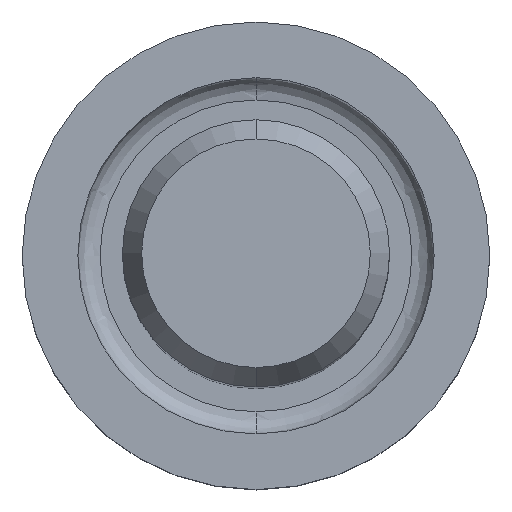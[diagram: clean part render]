
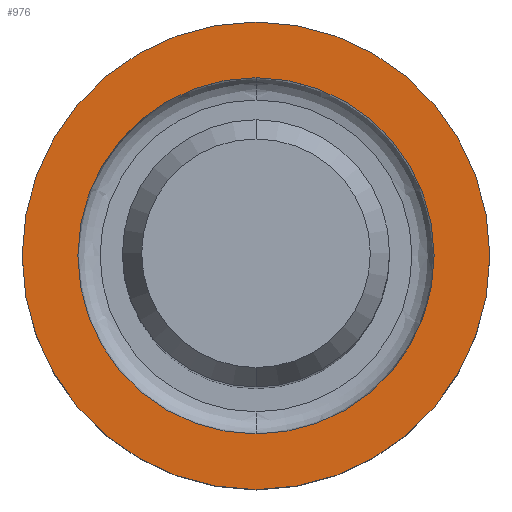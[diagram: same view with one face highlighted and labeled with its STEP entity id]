
A CAD part, top view. The second image highlights one B-rep face of the part: STEP entity #976.
In plain terms, the highlighted free-form (B-spline) face has degree [1, 1] with [2, 2] control points.
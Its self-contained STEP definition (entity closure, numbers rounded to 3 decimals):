
#145=CARTESIAN_POINT('',(0.,0.,-65.));
#146=DIRECTION('',(0.,0.,-1.));
#147=DIRECTION('',(0.,-1.,0.));
#148=AXIS2_PLACEMENT_3D('',#145,#146,#147);
#150=CARTESIAN_POINT('',(0.,0.,-65.));
#151=DIRECTION('',(0.,0.,1.));
#152=DIRECTION('',(0.,-1.,0.));
#153=AXIS2_PLACEMENT_3D('',#150,#151,#152);
#155=CARTESIAN_POINT('',(0.,0.,-65.));
#156=DIRECTION('',(0.,0.,1.));
#157=DIRECTION('',(0.,1.,0.));
#158=AXIS2_PLACEMENT_3D('',#155,#156,#157);
#160=CARTESIAN_POINT('',(0.,0.,-65.));
#161=DIRECTION('',(0.,0.,1.));
#162=DIRECTION('',(0.,-1.,0.));
#163=AXIS2_PLACEMENT_3D('',#160,#161,#162);
#260=CARTESIAN_POINT('',(0.,10.5,-65.));
#262=VERTEX_POINT('',#260);
#264=CARTESIAN_POINT('',(0.,-10.5,-65.));
#266=VERTEX_POINT('',#264);
#288=CARTESIAN_POINT('',(0.,8.,-65.));
#289=CARTESIAN_POINT('',(0.,-8.,-65.));
#290=VERTEX_POINT('',#288);
#291=VERTEX_POINT('',#289);
#960=CARTESIAN_POINT('',(10.92,10.92,-65.));
#961=CARTESIAN_POINT('',(-10.92,10.92,-65.));
#962=CARTESIAN_POINT('',(10.92,-10.92,-65.));
#963=CARTESIAN_POINT('',(-10.92,-10.92,-65.));
#964=B_SPLINE_SURFACE_WITH_KNOTS('',1,1,((#960,#961),(#962,#963)),.UNSPECIFIED.,
.F.,.F.,.F.,(2,2),(2,2),(-10.92,10.92),(-10.92,10.92),.UNSPECIFIED.);
#966=ORIENTED_EDGE('',*,*,#965,.T.);
#968=ORIENTED_EDGE('',*,*,#967,.F.);
#969=EDGE_LOOP('',(#966,#968));
#970=FACE_OUTER_BOUND('',#969,.F.);
#971=ORIENTED_EDGE('',*,*,#943,.T.);
#973=ORIENTED_EDGE('',*,*,#972,.T.);
#974=EDGE_LOOP('',(#971,#973));
#975=FACE_BOUND('',#974,.F.);
#149=CIRCLE('',#148,10.5);
#154=CIRCLE('',#153,10.5);
#159=CIRCLE('',#158,8.);
#164=CIRCLE('',#163,8.);
#943=EDGE_CURVE('',#290,#291,#159,.T.);
#965=EDGE_CURVE('',#266,#262,#149,.T.);
#967=EDGE_CURVE('',#266,#262,#154,.T.);
#972=EDGE_CURVE('',#291,#290,#164,.T.);
#976=ADVANCED_FACE('',(#970,#975),#964,.F.);
